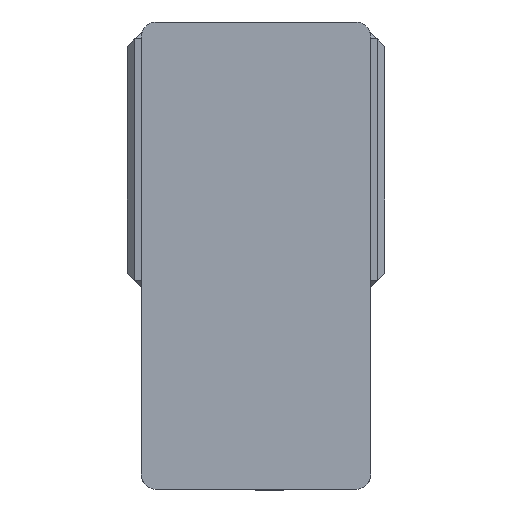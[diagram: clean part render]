
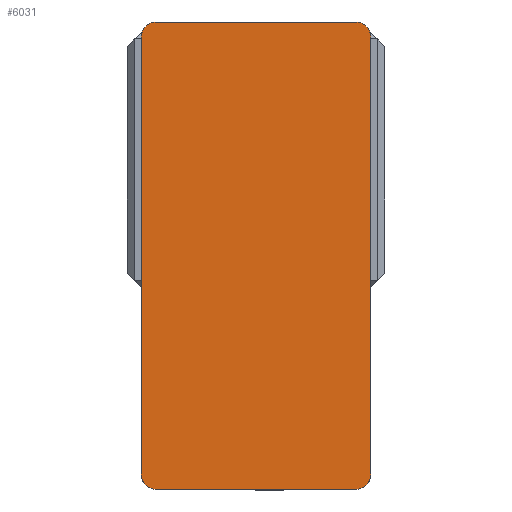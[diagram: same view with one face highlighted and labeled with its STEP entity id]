
A CAD part, left-side view. The second image highlights one B-rep face of the part: STEP entity #6031.
In plain terms, the highlighted planar face has unit normal (-1, 0, 0) as drawn and (0, 0, 1) by its records, which use the part's own axes.
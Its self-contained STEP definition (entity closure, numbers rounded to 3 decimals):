
#179 = ORIENTED_EDGE ( 'NONE', *, *, #6100, .T. ) ;
#286 = DIRECTION ( 'NONE',  ( 1., 0., 0. ) ) ;
#513 = CARTESIAN_POINT ( 'NONE',  ( 65., 152.5, 105. ) ) ;
#686 = DIRECTION ( 'NONE',  ( 1., 0., 0. ) ) ;
#1351 = LINE ( 'NONE', #6990, #4517 ) ;
#1533 = DIRECTION ( 'NONE',  ( 1., 0., 0. ) ) ;
#1753 = EDGE_CURVE ( 'NONE', #13358, #3584, #19411, .T. ) ;
#1888 = CIRCLE ( 'NONE', #18952, 10. ) ;
#2431 = ORIENTED_EDGE ( 'NONE', *, *, #19589, .T. ) ;
#3584 = VERTEX_POINT ( 'NONE', #14366 ) ;
#3615 = CARTESIAN_POINT ( 'NONE',  ( 65., -142.5, 105. ) ) ;
#3797 = VECTOR ( 'NONE', #16428, 1000. ) ;
#3823 = CARTESIAN_POINT ( 'NONE',  ( -75., -152.5, 105. ) ) ;
#3881 = CIRCLE ( 'NONE', #16611, 10. ) ;
#3937 = AXIS2_PLACEMENT_3D ( 'NONE', #10011, #10081, #686 ) ;
#4517 = VECTOR ( 'NONE', #8573, 1000. ) ;
#5148 = VECTOR ( 'NONE', #13213, 1000. ) ;
#5197 = DIRECTION ( 'NONE',  ( 1., 0., 0. ) ) ;
#5207 = CARTESIAN_POINT ( 'NONE',  ( -75., 152.5, 105. ) ) ;
#6031 = ADVANCED_FACE ( 'NONE', ( #18070 ), #19370, .T. ) ;
#6100 = EDGE_CURVE ( 'NONE', #8933, #8185, #17580, .T. ) ;
#6818 = DIRECTION ( 'NONE',  ( 0., 0., 1. ) ) ;
#6840 = CARTESIAN_POINT ( 'NONE',  ( 75., 142.5, 105. ) ) ;
#6990 = CARTESIAN_POINT ( 'NONE',  ( 75., 152.5, 105. ) ) ;
#7067 = CIRCLE ( 'NONE', #14837, 10. ) ;
#7080 = VERTEX_POINT ( 'NONE', #19413 ) ;
#7557 = EDGE_CURVE ( 'NONE', #8185, #16100, #11239, .T. ) ;
#8177 = EDGE_CURVE ( 'NONE', #11859, #14082, #3881, .T. ) ;
#8185 = VERTEX_POINT ( 'NONE', #17094 ) ;
#8573 = DIRECTION ( 'NONE',  ( 0., 1., 0. ) ) ;
#8933 = VERTEX_POINT ( 'NONE', #14609 ) ;
#9111 = EDGE_CURVE ( 'NONE', #7080, #13358, #7067, .T. ) ;
#9250 = EDGE_CURVE ( 'NONE', #3584, #8933, #1888, .T. ) ;
#9652 = EDGE_LOOP ( 'NONE', ( #179, #12984, #2431, #11401, #13377, #13046, #17512, #9940 ) ) ;
#9669 = DIRECTION ( 'NONE',  ( 0., 0., 1. ) ) ;
#9940 = ORIENTED_EDGE ( 'NONE', *, *, #9250, .T. ) ;
#10011 = CARTESIAN_POINT ( 'NONE',  ( 0., 0., 105. ) ) ;
#10081 = DIRECTION ( 'NONE',  ( 0., 0., 1. ) ) ;
#10912 = DIRECTION ( 'NONE',  ( 0., 0., 1. ) ) ;
#10932 = VECTOR ( 'NONE', #17678, 1000. ) ;
#11239 = CIRCLE ( 'NONE', #12192, 10. ) ;
#11401 = ORIENTED_EDGE ( 'NONE', *, *, #8177, .T. ) ;
#11859 = VERTEX_POINT ( 'NONE', #6840 ) ;
#12192 = AXIS2_PLACEMENT_3D ( 'NONE', #3615, #14572, #5197 ) ;
#12984 = ORIENTED_EDGE ( 'NONE', *, *, #7557, .T. ) ;
#13046 = ORIENTED_EDGE ( 'NONE', *, *, #9111, .T. ) ;
#13213 = DIRECTION ( 'NONE',  ( 1., 0., 0. ) ) ;
#13358 = VERTEX_POINT ( 'NONE', #15564 ) ;
#13377 = ORIENTED_EDGE ( 'NONE', *, *, #18103, .T. ) ;
#14082 = VERTEX_POINT ( 'NONE', #513 ) ;
#14366 = CARTESIAN_POINT ( 'NONE',  ( -75., -142.5, 105. ) ) ;
#14572 = DIRECTION ( 'NONE',  ( 0., 0., 1. ) ) ;
#14609 = CARTESIAN_POINT ( 'NONE',  ( -65., -152.5, 105. ) ) ;
#14837 = AXIS2_PLACEMENT_3D ( 'NONE', #18969, #9669, #286 ) ;
#15354 = CARTESIAN_POINT ( 'NONE',  ( -75., 152.5, 105. ) ) ;
#15564 = CARTESIAN_POINT ( 'NONE',  ( -75., 142.5, 105. ) ) ;
#16100 = VERTEX_POINT ( 'NONE', #16165 ) ;
#16154 = CARTESIAN_POINT ( 'NONE',  ( -65., -142.5, 105. ) ) ;
#16165 = CARTESIAN_POINT ( 'NONE',  ( 75., -142.5, 105. ) ) ;
#16428 = DIRECTION ( 'NONE',  ( 0., -1., 0. ) ) ;
#16611 = AXIS2_PLACEMENT_3D ( 'NONE', #20236, #10912, #1533 ) ;
#17094 = CARTESIAN_POINT ( 'NONE',  ( 65., -152.5, 105. ) ) ;
#17512 = ORIENTED_EDGE ( 'NONE', *, *, #1753, .T. ) ;
#17580 = LINE ( 'NONE', #3823, #5148 ) ;
#17678 = DIRECTION ( 'NONE',  ( -1., 0., 0. ) ) ;
#17691 = DIRECTION ( 'NONE',  ( 1., 0., 0. ) ) ;
#18070 = FACE_OUTER_BOUND ( 'NONE', #9652, .T. ) ;
#18103 = EDGE_CURVE ( 'NONE', #14082, #7080, #19206, .T. ) ;
#18952 = AXIS2_PLACEMENT_3D ( 'NONE', #16154, #6818, #17691 ) ;
#18969 = CARTESIAN_POINT ( 'NONE',  ( -65., 142.5, 105. ) ) ;
#19206 = LINE ( 'NONE', #5207, #10932 ) ;
#19370 = PLANE ( 'NONE',  #3937 ) ;
#19411 = LINE ( 'NONE', #15354, #3797 ) ;
#19413 = CARTESIAN_POINT ( 'NONE',  ( -65., 152.5, 105. ) ) ;
#19589 = EDGE_CURVE ( 'NONE', #16100, #11859, #1351, .T. ) ;
#20236 = CARTESIAN_POINT ( 'NONE',  ( 65., 142.5, 105. ) ) ;
